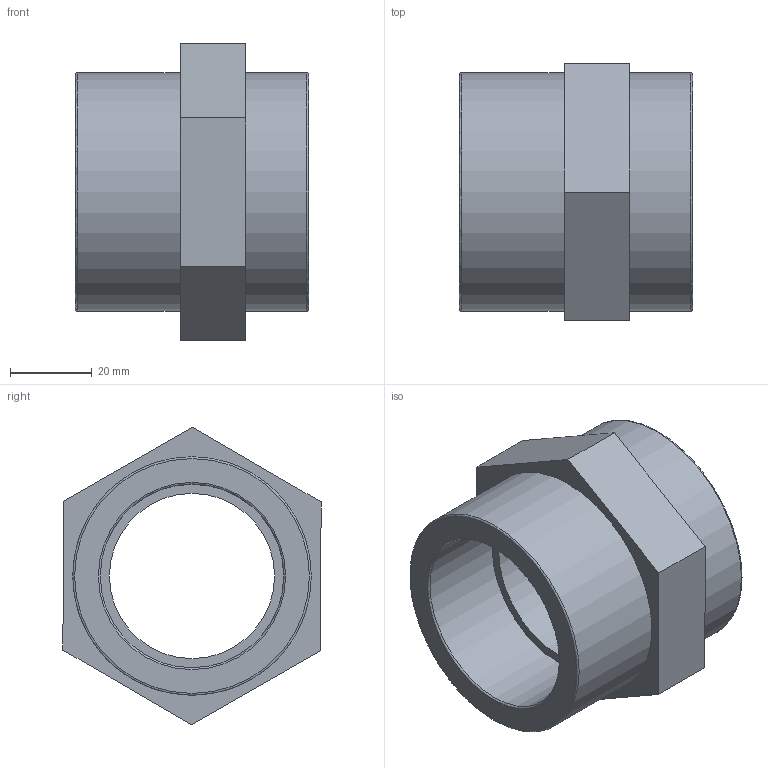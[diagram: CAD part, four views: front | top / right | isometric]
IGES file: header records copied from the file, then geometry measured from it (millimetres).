
Global section: file name: 050101015.ipt; native system: Autodesk Inventor 2015; preprocessor: unknown; author: KIM; date: 20171207.164040; units: millimetre
Bounding box: 57 x 63.1 x 72.75 mm (x, y, z)
Volume: 78281.4 mm3; surface area: 23039.2 mm2
Topology: 1 solids, 1 shells, 21 faces, 55 edges, 40 vertices
Faces by surface type: plane 12, revolution 7, cylinder 2
Full cylindrical faces by diameter (mm): 58.298 x2
